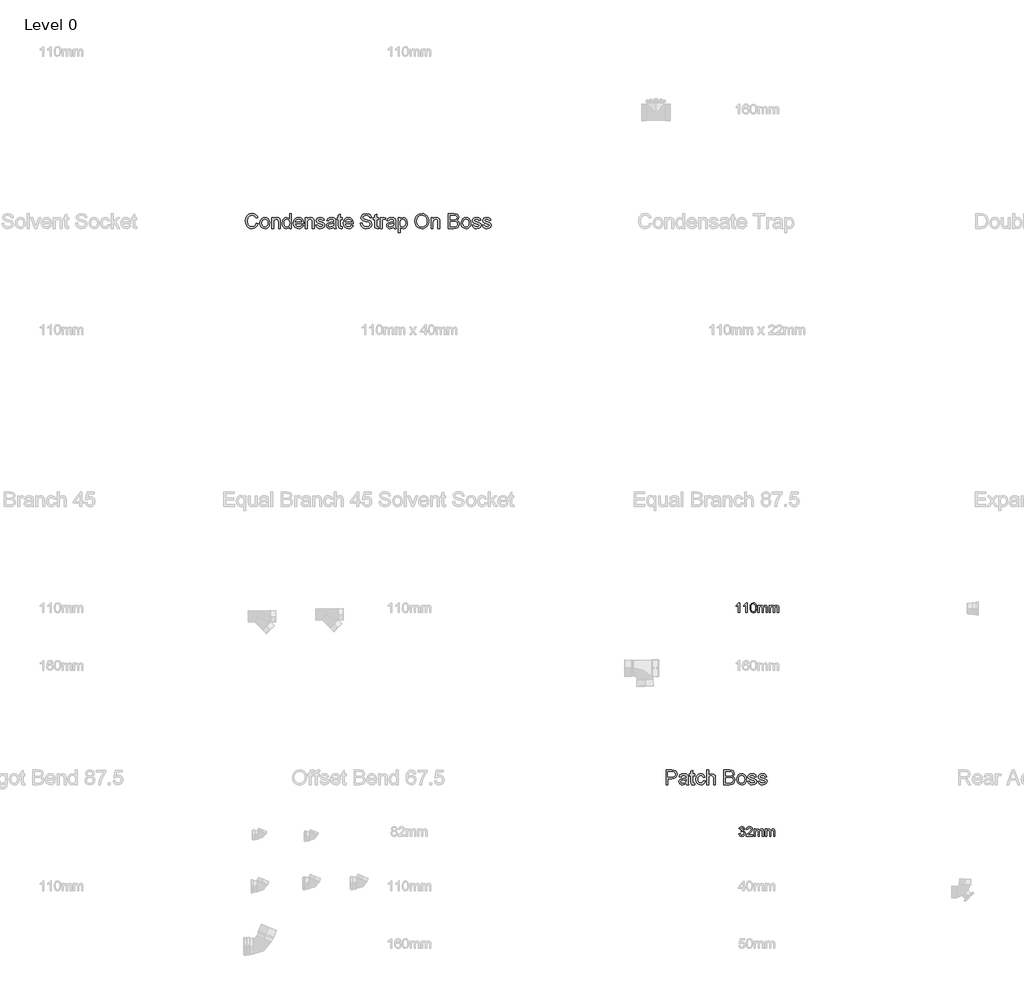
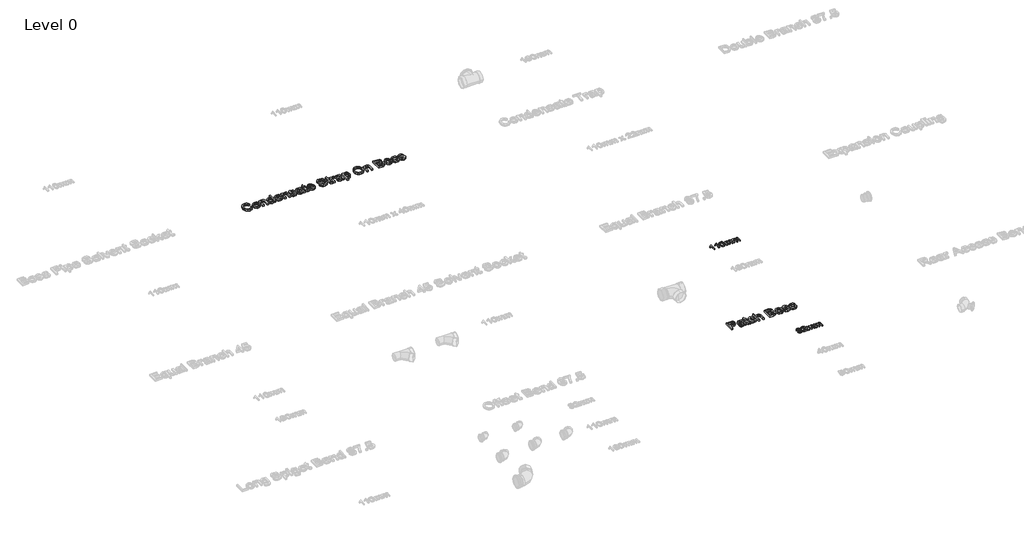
# One storey, part 19 of 28: 4 proxies.
"""IFC4 building model written with IfcOpenShell, lengths in millimetres."""

from ifc_helpers import new_model, si_unit, origin, origin_with_axes, place, context, project, spatial, polyline, outline, extrude, element, save

model = new_model("IFC4")

# Units and contexts
model_context = context("Model", 3, world=origin())
ifc_project = project(units=[si_unit("LENGTHUNIT", "METRE", prefix="MILLI")], contexts=[model_context])

# Site, building, storey
site = spatial("IfcSite", under=ifc_project)
building = spatial("IfcBuilding", under=site)
storey = spatial("IfcBuildingStorey", under=building, Name="Level 0", Elevation=0.0)

# Proxies
placement = place(None, origin())
element("IfcBuildingElementProxy", 1, Name="100mm Arial", ObjectType="100mm Arial", at=placement, inside=storey, context=model_context, shape_type="SweptSolid", body=[
    extrude(outline(polyline([(-6791.7293188, 2637.7167304), (-6804.0370111, 2637.7167304), (-6804.0370111, 2714.4474996), (-6815.6956649, 2706.1422111), (-6828.6523957, 2699.9282688), (-6828.6523957, 2711.5628842), (-6810.6115303, 2723.0773073), (-6799.6620111, 2736.1782688), (-6791.7293188, 2736.1782688), (-6791.7293188, 2637.7167304)])), origin_with_axes(), (0.0, 0.0, 1.0), 15.0),
    extrude(outline(polyline([(-6716.3447034, 2637.7167304), (-6728.6523957, 2637.7167304), (-6728.6523957, 2714.4474996), (-6740.3110495, 2706.1422111), (-6753.2677803, 2699.9282688), (-6753.2677803, 2711.5628842), (-6735.2269149, 2723.0773073), (-6724.2773957, 2736.1782688), (-6716.3447034, 2736.1782688), (-6716.3447034, 2637.7167304)])), origin_with_axes(), (0.0, 0.0, 1.0), 15.0),
    extrude(outline(polyline([(-6687.1139341, 2686.1542304), (-6683.4961457, 2714.4835573), (-6672.7509534, 2730.8176919), (-6654.8062418, 2736.1782688), (-6640.4312418, 2733.0051919), (-6630.5033572, 2723.8585573), (-6624.7341264, 2709.2912496), (-6622.4985495, 2686.1542304), (-6626.0802803, 2657.9450958), (-6636.7894149, 2641.5749035), (-6654.8062418, 2636.1782688), (-6667.5947034, 2638.5220188), (-6677.3062418, 2645.5532688), (-6684.6620111, 2662.2059131), (-6687.1139341, 2686.1542304)]), holes=[polyline([(-6674.8062418, 2686.1782688), (-6673.3639341, 2666.8182929), (-6669.0370111, 2655.613365), (-6662.5947034, 2650.2678121), (-6654.8062418, 2648.4859611), (-6647.0177803, 2650.2738217), (-6640.5754726, 2655.6374035), (-6636.2485495, 2666.848341), (-6634.8062418, 2686.1782688), (-6636.2004726, 2705.1025477), (-6640.3831649, 2716.394615), (-6646.8134534, 2722.0015861), (-6654.9504726, 2723.8705765), (-6662.6547995, 2722.2239419), (-6668.8447034, 2717.2840381), (-6673.3158572, 2705.2888458), (-6674.8062418, 2686.1782688)])]), origin_with_axes(), (0.0, 0.0, 1.0), 15.0),
    extrude(outline(polyline([(-6608.6523957, 2637.7167304), (-6608.6523957, 2710.0244227), (-6596.3447034, 2710.0244227), (-6596.3447034, 2698.1253842), (-6587.8831649, 2707.8729804), (-6575.8398957, 2711.5628842), (-6563.5081649, 2707.800865), (-6556.7293188, 2697.2599996), (-6547.1259534, 2707.9871631), (-6534.9985495, 2711.5628842), (-6525.7467466, 2710.0755044), (-6518.9047995, 2705.613365), (-6514.6770351, 2698.0562736), (-6513.2677803, 2687.2840381), (-6513.2677803, 2637.7167304), (-6525.5754726, 2637.7167304), (-6525.5754726, 2681.9955765), (-6526.7172995, 2692.2720188), (-6530.8519149, 2697.332115), (-6537.8831649, 2699.2551919), (-6549.9865303, 2694.3273073), (-6554.8062418, 2678.5340381), (-6554.8062418, 2637.7167304), (-6567.1139341, 2637.7167304), (-6567.1139341, 2683.3657688), (-6569.9624918, 2695.2888458), (-6579.3014341, 2699.2551919), (-6588.4120111, 2696.6109611), (-6594.4697034, 2688.8705765), (-6596.3447034, 2674.1830765), (-6596.3447034, 2637.7167304), (-6608.6523957, 2637.7167304)])), origin_with_axes(), (0.0, 0.0, 1.0), 15.0),
    extrude(outline(polyline([(-6494.8062418, 2637.7167304), (-6494.8062418, 2710.0244227), (-6482.4985495, 2710.0244227), (-6482.4985495, 2698.1253842), (-6474.0370111, 2707.8729804), (-6461.9937418, 2711.5628842), (-6449.6620111, 2707.800865), (-6442.8831649, 2697.2599996), (-6433.2797995, 2707.9871631), (-6421.1523957, 2711.5628842), (-6411.9005928, 2710.0755044), (-6405.0586457, 2705.613365), (-6400.8308813, 2698.0562736), (-6399.4216264, 2687.2840381), (-6399.4216264, 2637.7167304), (-6411.7293188, 2637.7167304), (-6411.7293188, 2681.9955765), (-6412.8711457, 2692.2720188), (-6417.0057611, 2697.332115), (-6424.0370111, 2699.2551919), (-6436.1403764, 2694.3273073), (-6440.960088, 2678.5340381), (-6440.960088, 2637.7167304), (-6453.2677803, 2637.7167304), (-6453.2677803, 2683.3657688), (-6456.116338, 2695.2888458), (-6465.4552803, 2699.2551919), (-6474.5658572, 2696.6109611), (-6480.6235495, 2688.8705765), (-6482.4985495, 2674.1830765), (-6482.4985495, 2637.7167304), (-6494.8062418, 2637.7167304)])), origin_with_axes(), (0.0, 0.0, 1.0), 15.0),
])
element("IfcBuildingElementProxy", 2, Name="100mm Arial", ObjectType="100mm Arial", at=placement, inside=storey, context=model_context, shape_type="SweptSolid", body=[
    extrude(outline(polyline([(-6800.1908572, 412.804251), (-6787.8831649, 414.3427125), (-6781.0922995, 401.3859817), (-6768.3879726, 397.4196356), (-6759.9504726, 398.7838183), (-6753.4360495, 402.8763663), (-6747.8831649, 416.3859817), (-6753.3879726, 429.1143471), (-6767.3783572, 434.1504048), (-6776.0081649, 432.804251), (-6774.6379726, 445.1119433), (-6772.6668188, 444.9677125), (-6758.7004726, 448.5013663), (-6754.0490303, 452.9845394), (-6752.4985495, 459.366751), (-6756.9937418, 468.9941548), (-6768.5802803, 472.804251), (-6780.3110495, 468.9580971), (-6786.3447034, 457.4196356), (-6798.6523957, 458.9580971), (-6795.0285976, 470.0097798), (-6788.5802803, 478.2609817), (-6779.7581649, 483.3992029), (-6769.0129726, 485.1119433), (-6754.1692226, 481.7345394), (-6743.7846072, 472.5037702), (-6740.1908572, 460.0879048), (-6743.6043188, 448.741751), (-6753.7004726, 440.5927125), (-6740.2870111, 432.179251), (-6735.5754726, 416.1696356), (-6737.9312418, 404.1744433), (-6744.9985495, 394.1504048), (-6755.6656168, 387.3715587), (-6768.8206649, 385.1119433), (-6780.7197034, 387.0410298), (-6790.4072034, 392.8282894), (-6797.1439822, 401.6804529), (-6800.1908572, 412.804251)])), origin_with_axes(), (0.0, 0.0, 1.0), 15.0),
    extrude(outline(polyline([(-6661.7293188, 398.9580971), (-6661.7293188, 386.6504048), (-6726.3447034, 386.6504048), (-6725.022588, 395.1359817), (-6717.5466264, 408.2008856), (-6702.1379726, 422.4677125), (-6680.8879726, 442.9725202), (-6675.5754726, 456.9148279), (-6680.5874918, 468.2008856), (-6693.6764341, 472.804251), (-6707.3182611, 468.3090587), (-6712.4985495, 455.881174), (-6724.8062418, 457.4196356), (-6721.8224678, 469.3246837), (-6715.3711457, 478.0205971), (-6705.7888139, 483.3391067), (-6693.4120111, 485.1119433), (-6680.9450639, 483.1407894), (-6671.3807611, 477.2273279), (-6665.2960255, 468.3931933), (-6663.2677803, 457.6600202), (-6665.4552803, 445.9893471), (-6672.7269149, 433.9220394), (-6690.3591264, 417.0590587), (-6704.5177803, 405.2201163), (-6710.0706649, 398.9580971), (-6661.7293188, 398.9580971)])), origin_with_axes(), (0.0, 0.0, 1.0), 15.0),
    extrude(outline(polyline([(-6646.3447034, 386.6504048), (-6646.3447034, 458.9580971), (-6634.0370111, 458.9580971), (-6634.0370111, 447.0590587), (-6625.5754726, 456.8066548), (-6613.5322034, 460.4965587), (-6601.2004726, 456.7345394), (-6594.4216264, 446.193674), (-6584.8182611, 456.9208375), (-6572.6908572, 460.4965587), (-6563.4390543, 459.0091788), (-6556.5971072, 454.5470394), (-6552.3693428, 446.9899481), (-6550.960088, 436.2177125), (-6550.960088, 386.6504048), (-6563.2677803, 386.6504048), (-6563.2677803, 430.929251), (-6564.4096072, 441.2056933), (-6568.5442226, 446.2657894), (-6575.5754726, 448.1888663), (-6587.678838, 443.2609817), (-6592.4985495, 427.4677125), (-6592.4985495, 386.6504048), (-6604.8062418, 386.6504048), (-6604.8062418, 432.2994433), (-6607.6547995, 444.2225202), (-6616.9937418, 448.1888663), (-6626.1043188, 445.5446356), (-6632.1620111, 437.804251), (-6634.0370111, 423.116751), (-6634.0370111, 386.6504048), (-6646.3447034, 386.6504048)])), origin_with_axes(), (0.0, 0.0, 1.0), 15.0),
    extrude(outline(polyline([(-6532.4985495, 386.6504048), (-6532.4985495, 458.9580971), (-6520.1908572, 458.9580971), (-6520.1908572, 447.0590587), (-6511.7293188, 456.8066548), (-6499.6860495, 460.4965587), (-6487.3543188, 456.7345394), (-6480.5754726, 446.193674), (-6470.9721072, 456.9208375), (-6458.8447034, 460.4965587), (-6449.5929005, 459.0091788), (-6442.7509534, 454.5470394), (-6438.5231889, 446.9899481), (-6437.1139341, 436.2177125), (-6437.1139341, 386.6504048), (-6449.4216264, 386.6504048), (-6449.4216264, 430.929251), (-6450.5634534, 441.2056933), (-6454.6980688, 446.2657894), (-6461.7293188, 448.1888663), (-6473.8326841, 443.2609817), (-6478.6523957, 427.4677125), (-6478.6523957, 386.6504048), (-6490.960088, 386.6504048), (-6490.960088, 432.2994433), (-6493.8086457, 444.2225202), (-6503.147588, 448.1888663), (-6512.2581649, 445.5446356), (-6518.3158572, 437.804251), (-6520.1908572, 423.116751), (-6520.1908572, 386.6504048), (-6532.4985495, 386.6504048)])), origin_with_axes(), (0.0, 0.0, 1.0), 15.0),
])
element("IfcBuildingElementProxy", 3, Name="150mm Arial", ObjectType="150mm Arial", at=placement, inside=storey, context=model_context, shape_type="SweptSolid", body=[
    extrude(outline(polyline([(-11655.2202973, 6557.7145219), (-11636.7587589, 6552.9549065), (-11645.2773887, 6531.4419859), (-11658.6457781, 6515.7253392), (-11676.2058743, 6506.111457), (-11697.2996243, 6502.9068296), (-11718.7133863, 6505.3317094), (-11735.7190954, 6512.6063488), (-11748.7539512, 6524.478344), (-11758.2551531, 6540.6952911), (-11764.0559344, 6559.760796), (-11765.9895281, 6580.1784642), (-11763.8035305, 6601.713921), (-11757.2455377, 6620.3106758), (-11746.6580978, 6635.3782839), (-11732.3837589, 6646.3263008), (-11715.4546723, 6652.9924666), (-11696.9029897, 6655.2145219), (-11676.6611026, 6652.338921), (-11659.9258262, 6643.7121181), (-11647.2199969, 6629.8659642), (-11639.0664512, 6611.3323104), (-11657.5279897, 6606.9332719), (-11663.92823, 6620.3963128), (-11672.6722204, 6629.6315892), (-11683.8681339, 6634.9726349), (-11697.6241435, 6636.7529835), (-11713.4805137, 6634.7788248), (-11726.506355, 6628.8563488), (-11736.3906699, 6619.6075508), (-11742.8224608, 6607.6544258), (-11747.5279897, 6580.2145219), (-11741.9570762, 6548.4116373), (-11734.835682, 6536.5351349), (-11724.6133262, 6528.0931277), (-11712.358218, 6523.049558), (-11699.1385666, 6521.3683681), (-11683.7284103, 6523.6580315), (-11670.8873647, 6530.5270219), (-11661.1923526, 6541.9032238), (-11655.2202973, 6557.7145219)])), origin_with_axes(), (0.0, 0.0, 1.0), 25.0),
    extrude(outline(polyline([(-11618.2972204, 6559.4452911), (-11614.303831, 6585.5961325), (-11602.3236627, 6603.9765411), (-11587.52198, 6612.9819498), (-11569.7996243, 6615.9837527), (-11550.405093, 6612.3284041), (-11534.913807, 6601.3623585), (-11524.7590594, 6583.9510003), (-11521.3741435, 6560.9597142), (-11522.8705377, 6542.3088729), (-11527.3597204, 6528.1111565), (-11534.7109824, 6517.4786445), (-11544.7936147, 6509.5234161), (-11556.7692757, 6504.5609762), (-11569.7996243, 6502.9068296), (-11589.4285305, 6506.5486565), (-11604.9017877, 6517.4741373), (-11614.9483622, 6535.2505796), (-11618.2972204, 6559.4452911)]), holes=[polyline([(-11599.835682, 6559.4813488), (-11597.6992637, 6542.7731157), (-11591.2900089, 6530.86957), (-11581.6445762, 6523.7436686), (-11569.7996243, 6521.3683681), (-11558.0087589, 6523.7571902), (-11548.381355, 6530.9236565), (-11541.9721002, 6542.9849546), (-11539.835682, 6560.0582719), (-11541.9856219, 6576.2797262), (-11548.4354416, 6588.0210123), (-11558.0763671, 6595.1469137), (-11569.7996243, 6597.5222142), (-11581.6445762, 6595.1559282), (-11591.2900089, 6588.05707), (-11597.6992637, 6576.1805676), (-11599.835682, 6559.4813488)])]), origin_with_axes(), (0.0, 0.0, 1.0), 25.0),
    extrude(outline(polyline([(-11500.6049127, 6505.2145219), (-11500.6049127, 6613.6760604), (-11482.1433743, 6613.6760604), (-11482.1433743, 6598.5318296), (-11468.0267877, 6611.6207719), (-11448.7539512, 6615.9837527), (-11431.320057, 6612.4681277), (-11419.4210185, 6603.2373585), (-11413.8861627, 6589.6616373), (-11412.912605, 6571.8130796), (-11412.912605, 6505.2145219), (-11431.3741435, 6505.2145219), (-11431.3741435, 6569.3250988), (-11433.5015473, 6585.6592335), (-11441.0195762, 6594.2950508), (-11453.693855, 6597.5222142), (-11464.5066555, 6595.7103152), (-11473.7239031, 6590.2746181), (-11480.0385065, 6579.7728152), (-11482.1433743, 6562.7625988), (-11482.1433743, 6505.2145219), (-11500.6049127, 6505.2145219)])), origin_with_axes(), (0.0, 0.0, 1.0), 25.0),
    extrude(outline(polyline([(-11320.6049127, 6505.2145219), (-11320.6049127, 6522.6303873), (-11332.819456, 6507.837719), (-11349.7034704, 6502.9068296), (-11361.6385666, 6504.6916854), (-11372.5640473, 6510.0462527), (-11381.8128454, 6518.596433), (-11388.7178935, 6529.9681277), (-11393.0177733, 6543.7016012), (-11394.4510666, 6559.3371181), (-11389.1686147, 6588.7241373), (-11382.570057, 6600.3797863), (-11373.3392877, 6608.9525027), (-11362.1749247, 6614.2259402), (-11349.7755858, 6615.9837527), (-11332.756355, 6610.9537046), (-11320.6049127, 6597.8827911), (-11320.6049127, 6652.9068296), (-11302.1433743, 6652.9068296), (-11302.1433743, 6505.2145219), (-11320.6049127, 6505.2145219)]), holes=[polyline([(-11375.9895281, 6559.4092335), (-11373.9071964, 6542.7100147), (-11367.6602012, 6530.8335123), (-11358.5826772, 6523.7346541), (-11348.0087589, 6521.3683681), (-11337.4393478, 6523.6264811), (-11328.5916916, 6530.40082), (-11322.6016074, 6541.8175868), (-11320.6049127, 6558.0029835), (-11322.6376651, 6575.698296), (-11328.7359223, 6587.9669258), (-11337.8089392, 6595.1333921), (-11348.7659704, 6597.5222142), (-11359.4480618, 6595.2280436), (-11368.2010666, 6588.3455315), (-11374.0424127, 6576.5231157), (-11375.9895281, 6559.4092335)])]), origin_with_axes(), (0.0, 0.0, 1.0), 25.0),
    extrude(outline(polyline([(-11198.5135666, 6537.5222142), (-11180.412605, 6535.2145219), (-11186.9345401, 6521.5756998), (-11197.3416916, 6511.3803873), (-11211.3996844, 6505.025219), (-11228.8741435, 6502.9068296), (-11250.5358022, 6506.5621782), (-11267.2034704, 6517.5282238), (-11277.8314752, 6535.0928272), (-11281.3741435, 6558.5438488), (-11277.7954175, 6582.7836325), (-11267.0592397, 6600.9116373), (-11250.616932, 6612.2157238), (-11229.9198166, 6615.9837527), (-11209.8672324, 6612.2247383), (-11193.8440954, 6600.947695), (-11183.3377853, 6582.8557479), (-11179.835682, 6558.6520219), (-11179.943855, 6553.6760604), (-11262.912605, 6553.6760604), (-11259.7169921, 6539.8569498), (-11252.2936147, 6529.697695), (-11241.5799728, 6523.4506998), (-11228.5135666, 6521.3683681), (-11210.412605, 6525.2265411), (-11198.5135666, 6537.5222142)]), holes=[polyline([(-11262.912605, 6572.1375988), (-11198.2972204, 6572.1375988), (-11200.7942156, 6581.8912046), (-11205.6890473, 6588.8683681), (-11216.4522685, 6595.3587527), (-11229.991932, 6597.5222142), (-11242.436343, 6595.7959522), (-11252.726307, 6590.6171661), (-11259.8792517, 6582.5447503), (-11262.912605, 6572.1375988)])]), origin_with_axes(), (0.0, 0.0, 1.0), 25.0),
    extrude(outline(polyline([(-11161.3741435, 6505.2145219), (-11161.3741435, 6613.6760604), (-11142.912605, 6613.6760604), (-11142.912605, 6598.5318296), (-11128.7960185, 6611.6207719), (-11109.523182, 6615.9837527), (-11092.0892877, 6612.4681277), (-11080.1902493, 6603.2373585), (-11074.6553935, 6589.6616373), (-11073.6818358, 6571.8130796), (-11073.6818358, 6505.2145219), (-11092.1433743, 6505.2145219), (-11092.1433743, 6569.3250988), (-11094.2707781, 6585.6592335), (-11101.788807, 6594.2950508), (-11114.4630858, 6597.5222142), (-11125.2758863, 6595.7103152), (-11134.4931339, 6590.2746181), (-11140.8077372, 6579.7728152), (-11142.912605, 6562.7625988), (-11142.912605, 6505.2145219), (-11161.3741435, 6505.2145219)])), origin_with_axes(), (0.0, 0.0, 1.0), 25.0),
    extrude(outline(polyline([(-11055.2202973, 6537.5222142), (-11036.7587589, 6539.8299065), (-11033.8471002, 6531.9332719), (-11028.2130858, 6526.1279835), (-11008.6337589, 6521.3683681), (-10989.8116435, 6525.7313488), (-10983.6818358, 6535.9717335), (-10989.8477012, 6544.2650027), (-11008.850105, 6549.5294258), (-11036.6505858, 6558.5618777), (-11048.7839993, 6569.1087527), (-11052.912605, 6584.0005796), (-11049.5952973, 6597.7565892), (-11040.5448166, 6608.2674065), (-11028.8080377, 6613.7301469), (-11012.9246243, 6615.9837527), (-10990.460682, 6612.3599546), (-10976.1818358, 6602.5522623), (-10969.835682, 6585.9837527), (-10988.2972204, 6583.6760604), (-10995.2383262, 6593.8623585), (-11011.4823166, 6597.5222142), (-11029.1505858, 6594.0246181), (-11034.4510666, 6585.8755796), (-11032.2515473, 6580.5029835), (-11025.3645281, 6576.4284642), (-11009.4630858, 6572.4981758), (-10982.36573, 6563.8082719), (-10969.7815954, 6553.9645219), (-10965.2202973, 6537.9188488), (-10970.5748647, 6520.2505796), (-10986.0255858, 6507.43207), (-11008.8861627, 6502.9068296), (-11027.5009464, 6505.08832), (-11041.085682, 6511.6327911), (-11050.1541916, 6522.4681277), (-11055.2202973, 6537.5222142)])), origin_with_axes(), (0.0, 0.0, 1.0), 25.0),
    extrude(outline(polyline([(-10875.2202973, 6519.0606758), (-10893.1229416, 6506.5486565), (-10912.9005858, 6502.9068296), (-10928.3287709, 6505.0973344), (-10939.70948, 6511.6688488), (-10946.7272084, 6521.6478152), (-10949.0664512, 6534.0606758), (-10945.5327973, 6548.6640411), (-10936.2479416, 6559.2650027), (-10923.3212589, 6565.322695), (-10907.3477012, 6568.0991373), (-10875.3284704, 6574.4452911), (-10875.2202973, 6578.5558681), (-10876.491331, 6586.7950508), (-10880.304432, 6592.1856758), (-10888.8320762, 6596.1880796), (-10900.7130858, 6597.5222142), (-10919.3909704, 6593.9705315), (-10928.2972204, 6581.3683681), (-10946.7587589, 6583.6760604), (-10938.77198, 6601.7049065), (-10922.6902493, 6612.2698104), (-10898.3332781, 6615.9837527), (-10875.95948, 6612.7025027), (-10863.3212589, 6604.46332), (-10857.6602012, 6591.9332719), (-10856.7587589, 6575.7794258), (-10856.7587589, 6552.8106758), (-10855.8212589, 6520.7373585), (-10852.1433743, 6505.2145219), (-10870.6049127, 6505.2145219), (-10875.2202973, 6519.0606758)]), holes=[polyline([(-10875.2202973, 6555.9837527), (-10905.0039512, 6550.322695), (-10920.8873647, 6547.3299065), (-10928.0808743, 6542.4621181), (-10930.6049127, 6535.3587527), (-10925.1061147, 6525.3707719), (-10908.9702973, 6521.3683681), (-10890.2924127, 6525.7854354), (-10878.2491435, 6536.4765411), (-10875.3284704, 6550.7553873), (-10875.2202973, 6555.9837527)])]), origin_with_axes(), (0.0, 0.0, 1.0), 25.0),
    extrude(outline(polyline([(-10792.1433743, 6520.6111565), (-10789.835682, 6504.6736565), (-10803.6457781, 6502.9068296), (-10819.1145281, 6505.9717335), (-10826.8308743, 6514.0125988), (-10829.0664512, 6534.9621181), (-10829.0664512, 6595.2145219), (-10842.912605, 6595.2145219), (-10842.912605, 6613.6760604), (-10829.0664512, 6613.6760604), (-10829.0664512, 6640.0342335), (-10810.6049127, 6650.8875988), (-10810.6049127, 6613.6760604), (-10792.1433743, 6613.6760604), (-10792.1433743, 6595.2145219), (-10810.6049127, 6595.2145219), (-10810.6049127, 6535.5029835), (-10809.631355, 6525.9837527), (-10806.476307, 6522.6123585), (-10800.1842397, 6521.3683681), (-10792.1433743, 6520.6111565)])), origin_with_axes(), (0.0, 0.0, 1.0), 25.0),
    extrude(outline(polyline([(-10697.7443358, 6537.5222142), (-10679.6433743, 6535.2145219), (-10686.1653094, 6521.5756998), (-10696.5724608, 6511.3803873), (-10710.6304536, 6505.025219), (-10728.1049127, 6502.9068296), (-10749.7665714, 6506.5621782), (-10766.4342397, 6517.5282238), (-10777.0622445, 6535.0928272), (-10780.6049127, 6558.5438488), (-10777.0261868, 6582.7836325), (-10766.2900089, 6600.9116373), (-10749.8477012, 6612.2157238), (-10729.1505858, 6615.9837527), (-10709.0980017, 6612.2247383), (-10693.0748647, 6600.947695), (-10682.5685546, 6582.8557479), (-10679.0664512, 6558.6520219), (-10679.1746243, 6553.6760604), (-10762.1433743, 6553.6760604), (-10758.9477613, 6539.8569498), (-10751.5243839, 6529.697695), (-10740.8107421, 6523.4506998), (-10727.7443358, 6521.3683681), (-10709.6433743, 6525.2265411), (-10697.7443358, 6537.5222142)]), holes=[polyline([(-10762.1433743, 6572.1375988), (-10697.5279897, 6572.1375988), (-10700.0249848, 6581.8912046), (-10704.9198166, 6588.8683681), (-10715.6830377, 6595.3587527), (-10729.2227012, 6597.5222142), (-10741.6671122, 6595.7959522), (-10751.9570762, 6590.6171661), (-10759.1100209, 6582.5447503), (-10762.1433743, 6572.1375988)])]), origin_with_axes(), (0.0, 0.0, 1.0), 25.0),
    extrude(outline(polyline([(-10607.5279897, 6555.9837527), (-10589.0664512, 6555.9837527), (-10583.116932, 6537.5041854), (-10568.585682, 6525.8214931), (-10546.4462589, 6521.3683681), (-10527.1553935, 6524.7397623), (-10514.6974608, 6534.0065892), (-10510.6049127, 6546.3924065), (-10513.6698166, 6557.9128392), (-10526.2178935, 6566.2962527), (-10553.0989031, 6573.3455315), (-10582.0352012, 6582.4500988), (-10597.7383262, 6596.1880796), (-10602.912605, 6614.541445), (-10601.3125449, 6625.3542455), (-10596.5123647, 6635.4368777), (-10588.6382661, 6643.9825508), (-10577.8164512, 6650.1844738), (-10550.4486627, 6655.2145219), (-10521.241932, 6649.9500988), (-10510.0460185, 6643.4506998), (-10501.7707781, 6634.4813488), (-10496.5333983, 6623.6009402), (-10494.4510666, 6611.3683681), (-10512.912605, 6611.3683681), (-10516.3020281, 6622.3839931), (-10523.3693358, 6630.3347142), (-10534.4120041, 6635.1484161), (-10549.7275089, 6636.7529835), (-10565.4035906, 6635.166445), (-10576.1577973, 6630.4068296), (-10582.3777493, 6623.4026229), (-10584.4510666, 6615.0823104), (-10582.9817156, 6607.9879594), (-10578.5736627, 6602.2818296), (-10548.429432, 6591.9693296), (-10515.7611627, 6582.7025027), (-10505.2368238, 6576.0047863), (-10497.8945762, 6567.7385604), (-10492.1433743, 6546.8611565), (-10493.7975209, 6535.4804474), (-10498.7599608, 6524.77582), (-10506.8278695, 6515.5630796), (-10517.7984223, 6508.6580315), (-10545.725105, 6502.9068296), (-10563.8125449, 6504.4573104), (-10578.6998647, 6509.1087527), (-10590.5583382, 6516.8791854), (-10599.5592397, 6527.7866373), (-10605.3374848, 6541.0738969), (-10607.5279897, 6555.9837527)])), origin_with_axes(), (0.0, 0.0, 1.0), 25.0),
    extrude(outline(polyline([(-10427.5279897, 6520.6111565), (-10425.2202973, 6504.6736565), (-10439.0303935, 6502.9068296), (-10454.4991435, 6505.9717335), (-10462.2154897, 6514.0125988), (-10464.4510666, 6534.9621181), (-10464.4510666, 6595.2145219), (-10478.2972204, 6595.2145219), (-10478.2972204, 6613.6760604), (-10464.4510666, 6613.6760604), (-10464.4510666, 6640.0342335), (-10445.9895281, 6650.8875988), (-10445.9895281, 6613.6760604), (-10427.5279897, 6613.6760604), (-10427.5279897, 6595.2145219), (-10445.9895281, 6595.2145219), (-10445.9895281, 6535.5029835), (-10445.0159704, 6525.9837527), (-10441.8609223, 6522.6123585), (-10435.568855, 6521.3683681), (-10427.5279897, 6520.6111565)])), origin_with_axes(), (0.0, 0.0, 1.0), 25.0),
    extrude(outline(polyline([(-10409.0664512, 6505.2145219), (-10409.0664512, 6613.6760604), (-10392.912605, 6613.6760604), (-10392.912605, 6597.6303873), (-10381.4462589, 6612.4140411), (-10369.9077973, 6615.9837527), (-10351.3741435, 6610.2866373), (-10357.5400089, 6593.7361565), (-10370.5207781, 6597.5222142), (-10380.95948, 6593.8803873), (-10387.6121243, 6583.7842335), (-10390.6049127, 6562.2217335), (-10390.6049127, 6505.2145219), (-10409.0664512, 6505.2145219)])), origin_with_axes(), (0.0, 0.0, 1.0), 25.0),
    extrude(outline(polyline([(-10270.6049127, 6519.0606758), (-10288.507557, 6506.5486565), (-10308.2852012, 6502.9068296), (-10323.7133863, 6505.0973344), (-10335.0940954, 6511.6688488), (-10342.1118238, 6521.6478152), (-10344.4510666, 6534.0606758), (-10340.9174127, 6548.6640411), (-10331.632557, 6559.2650027), (-10318.7058743, 6565.322695), (-10302.7323166, 6568.0991373), (-10270.7130858, 6574.4452911), (-10270.6049127, 6578.5558681), (-10271.8759464, 6586.7950508), (-10275.6890473, 6592.1856758), (-10284.2166916, 6596.1880796), (-10296.0977012, 6597.5222142), (-10314.7755858, 6593.9705315), (-10323.6818358, 6581.3683681), (-10342.1433743, 6583.6760604), (-10334.1565954, 6601.7049065), (-10318.0748647, 6612.2698104), (-10293.7178935, 6615.9837527), (-10271.3440954, 6612.7025027), (-10258.7058743, 6604.46332), (-10253.0448166, 6591.9332719), (-10252.1433743, 6575.7794258), (-10252.1433743, 6552.8106758), (-10251.2058743, 6520.7373585), (-10247.5279897, 6505.2145219), (-10265.9895281, 6505.2145219), (-10270.6049127, 6519.0606758)]), holes=[polyline([(-10270.6049127, 6555.9837527), (-10300.3885666, 6550.322695), (-10316.27198, 6547.3299065), (-10323.4654897, 6542.4621181), (-10325.9895281, 6535.3587527), (-10320.49073, 6525.3707719), (-10304.3549127, 6521.3683681), (-10285.6770281, 6525.7854354), (-10273.6337589, 6536.4765411), (-10270.7130858, 6550.7553873), (-10270.6049127, 6555.9837527)])]), origin_with_axes(), (0.0, 0.0, 1.0), 25.0),
    extrude(outline(polyline([(-10226.7587589, 6463.6760604), (-10226.7587589, 6613.6760604), (-10208.2972204, 6613.6760604), (-10208.2972204, 6595.5750988), (-10195.5327973, 6610.8815892), (-10178.2972204, 6615.9837527), (-10165.8122445, 6614.1988969), (-10154.8957781, 6608.8443296), (-10146.007557, 6600.24457), (-10139.6073166, 6588.7241373), (-10134.4510666, 6560.2746181), (-10135.9068959, 6544.4858561), (-10140.2743839, 6530.3647623), (-10147.413807, 6518.6279835), (-10157.1854416, 6509.9921661), (-10168.5661507, 6504.6781637), (-10180.5327973, 6502.9068296), (-10196.5964993, 6507.6484161), (-10208.2972204, 6519.6375988), (-10208.2972204, 6463.6760604), (-10226.7587589, 6463.6760604)]), holes=[polyline([(-10208.2972204, 6558.5799065), (-10206.3005257, 6542.0294258), (-10200.3104416, 6530.4549065), (-10191.4717997, 6523.6400027), (-10180.929432, 6521.3683681), (-10170.2157901, 6523.7211325), (-10161.1517877, 6530.7794258), (-10154.9724007, 6542.7776229), (-10152.912605, 6559.9500988), (-10154.9228214, 6576.4104354), (-10160.9534704, 6588.1472142), (-10169.7785906, 6595.1784642), (-10180.1722204, 6597.5222142), (-10190.6064151, 6595.0297262), (-10199.7695762, 6587.5522623), (-10206.1653094, 6575.3241974), (-10208.2972204, 6558.5799065)])]), origin_with_axes(), (0.0, 0.0, 1.0), 25.0),
    extrude(outline(polyline([(-10060.6049127, 6577.1135604), (-10055.6830377, 6609.7728152), (-10040.9174127, 6634.4813488), (-10018.3723406, 6650.0312286), (-9990.1121243, 6655.2145219), (-9970.7401291, 6652.7806277), (-9953.3693358, 6645.478945), (-9938.9462589, 6633.823296), (-9928.4174127, 6618.3275027), (-9921.9811147, 6599.7397623), (-9919.835682, 6578.8082719), (-9922.0937949, 6557.5973344), (-9928.8681339, 6538.7481758), (-9939.7846002, 6523.2253392), (-9954.4690954, 6511.9933681), (-9971.6911507, 6505.1784642), (-9990.2202973, 6502.9068296), (-10009.8897685, 6505.4173464), (-10027.3597204, 6512.9488969), (-10041.7467397, 6524.8208921), (-10052.1674127, 6540.3527431), (-10058.4955377, 6558.2238368), (-10060.6049127, 6577.1135604)]), holes=[polyline([(-10042.1433743, 6576.9332719), (-10038.451968, 6553.8293056), (-10027.3777493, 6536.2241373), (-10010.7326171, 6525.0823104), (-9990.3284704, 6521.3683681), (-9969.6268478, 6525.1183681), (-9952.9546723, 6536.3683681), (-9941.9615834, 6554.5144017), (-9938.2972204, 6578.9525027), (-9939.86573, 6595.2956517), (-9944.5712589, 6609.4212527), (-9952.2921122, 6620.9732359), (-9962.9065954, 6629.5955315), (-9975.7115834, 6634.9636205), (-9990.0039512, 6636.7529835), (-10009.8627252, 6633.3049666), (-10026.7467397, 6622.9609161), (-10038.2942156, 6604.5579714), (-10042.1433743, 6576.9332719)])]), origin_with_axes(), (0.0, 0.0, 1.0), 25.0),
    extrude(outline(polyline([(-9896.7587589, 6505.2145219), (-9896.7587589, 6613.6760604), (-9878.2972204, 6613.6760604), (-9878.2972204, 6598.5318296), (-9864.1806339, 6611.6207719), (-9844.9077973, 6615.9837527), (-9827.4739031, 6612.4681277), (-9815.5748647, 6603.2373585), (-9810.0400089, 6589.6616373), (-9809.0664512, 6571.8130796), (-9809.0664512, 6505.2145219), (-9827.5279897, 6505.2145219), (-9827.5279897, 6569.3250988), (-9829.6553935, 6585.6592335), (-9837.1734223, 6594.2950508), (-9849.8477012, 6597.5222142), (-9860.6605017, 6595.7103152), (-9869.8777493, 6590.2746181), (-9876.1923526, 6579.7728152), (-9878.2972204, 6562.7625988), (-9878.2972204, 6505.2145219), (-9896.7587589, 6505.2145219)])), origin_with_axes(), (0.0, 0.0, 1.0), 25.0),
    extrude(outline(polyline([(-9723.6818358, 6505.2145219), (-9723.6818358, 6652.9068296), (-9667.3236627, 6652.9068296), (-9639.7214993, 6648.5618777), (-9630.4456579, 6643.049558), (-9623.4234223, 6635.2025027), (-9617.5279897, 6616.3082719), (-9622.4859223, 6599.0546661), (-9637.4678935, 6585.9837527), (-9627.0066555, 6580.5210123), (-9619.2767877, 6572.2097142), (-9614.5036507, 6561.5997383), (-9612.912605, 6549.2409642), (-9617.257557, 6529.3912046), (-9628.0207781, 6515.2565892), (-9644.08448, 6507.7565892), (-9667.756355, 6505.2145219), (-9723.6818358, 6505.2145219)]), holes=[polyline([(-9705.2202973, 6592.9068296), (-9671.506355, 6592.9068296), (-9651.818855, 6594.4933681), (-9639.9739031, 6601.3263008), (-9635.9895281, 6613.3515411), (-9639.7034704, 6625.3948104), (-9650.3404897, 6632.5162046), (-9674.0664512, 6634.4452911), (-9705.2202973, 6634.4452911), (-9705.2202973, 6592.9068296)]), polyline([(-9705.2202973, 6523.6760604), (-9667.3597204, 6523.6760604), (-9653.6577973, 6524.3972142), (-9642.0652493, 6528.4176469), (-9634.3849608, 6536.6207719), (-9631.3741435, 6549.0606758), (-9634.9077973, 6563.4116373), (-9646.3561147, 6571.9753392), (-9669.162605, 6574.4452911), (-9705.2202973, 6574.4452911), (-9705.2202973, 6523.6760604)])]), origin_with_axes(), (0.0, 0.0, 1.0), 25.0),
    extrude(outline(polyline([(-9594.4510666, 6559.4452911), (-9590.4576772, 6585.5961325), (-9578.4775089, 6603.9765411), (-9563.6758262, 6612.9819498), (-9545.9534704, 6615.9837527), (-9526.5589392, 6612.3284041), (-9511.0676531, 6601.3623585), (-9500.9129055, 6583.9510003), (-9497.5279897, 6560.9597142), (-9499.0243839, 6542.3088729), (-9503.5135666, 6528.1111565), (-9510.8648286, 6517.4786445), (-9520.9474608, 6509.5234161), (-9532.9231219, 6504.5609762), (-9545.9534704, 6502.9068296), (-9565.5823767, 6506.5486565), (-9581.0556339, 6517.4741373), (-9591.1022084, 6535.2505796), (-9594.4510666, 6559.4452911)]), holes=[polyline([(-9575.9895281, 6559.4813488), (-9573.8531098, 6542.7731157), (-9567.443855, 6530.86957), (-9557.7984223, 6523.7436686), (-9545.9534704, 6521.3683681), (-9534.162605, 6523.7571902), (-9524.5352012, 6530.9236565), (-9518.1259464, 6542.9849546), (-9515.9895281, 6560.0582719), (-9518.139468, 6576.2797262), (-9524.5892877, 6588.0210123), (-9534.2302132, 6595.1469137), (-9545.9534704, 6597.5222142), (-9557.7984223, 6595.1559282), (-9567.443855, 6588.05707), (-9573.8531098, 6576.1805676), (-9575.9895281, 6559.4813488)])]), origin_with_axes(), (0.0, 0.0, 1.0), 25.0),
    extrude(outline(polyline([(-9483.6818358, 6537.5222142), (-9465.2202973, 6539.8299065), (-9462.3086387, 6531.9332719), (-9456.6746243, 6526.1279835), (-9437.0952973, 6521.3683681), (-9418.273182, 6525.7313488), (-9412.1433743, 6535.9717335), (-9418.3092397, 6544.2650027), (-9437.3116435, 6549.5294258), (-9465.1121243, 6558.5618777), (-9477.2455377, 6569.1087527), (-9481.3741435, 6584.0005796), (-9478.0568358, 6597.7565892), (-9469.006355, 6608.2674065), (-9457.2695762, 6613.7301469), (-9441.3861627, 6615.9837527), (-9418.9222204, 6612.3599546), (-9404.6433743, 6602.5522623), (-9398.2972204, 6585.9837527), (-9416.7587589, 6583.6760604), (-9423.6998647, 6593.8623585), (-9439.943855, 6597.5222142), (-9457.6121243, 6594.0246181), (-9462.912605, 6585.8755796), (-9460.7130858, 6580.5029835), (-9453.8260666, 6576.4284642), (-9437.9246243, 6572.4981758), (-9410.8272685, 6563.8082719), (-9398.2431339, 6553.9645219), (-9393.6818358, 6537.9188488), (-9399.0364031, 6520.2505796), (-9414.4871243, 6507.43207), (-9437.3477012, 6502.9068296), (-9455.9624848, 6505.08832), (-9469.5472204, 6511.6327911), (-9478.61573, 6522.4681277), (-9483.6818358, 6537.5222142)])), origin_with_axes(), (0.0, 0.0, 1.0), 25.0),
    extrude(outline(polyline([(-9379.835682, 6537.5222142), (-9361.3741435, 6539.8299065), (-9358.4624848, 6531.9332719), (-9352.8284704, 6526.1279835), (-9333.2491435, 6521.3683681), (-9314.4270281, 6525.7313488), (-9308.2972204, 6535.9717335), (-9314.4630858, 6544.2650027), (-9333.4654897, 6549.5294258), (-9361.2659704, 6558.5618777), (-9373.3993839, 6569.1087527), (-9377.5279897, 6584.0005796), (-9374.210682, 6597.7565892), (-9365.1602012, 6608.2674065), (-9353.4234223, 6613.7301469), (-9337.5400089, 6615.9837527), (-9315.0760666, 6612.3599546), (-9300.7972204, 6602.5522623), (-9294.4510666, 6585.9837527), (-9312.912605, 6583.6760604), (-9319.8537108, 6593.8623585), (-9336.0977012, 6597.5222142), (-9353.7659704, 6594.0246181), (-9359.0664512, 6585.8755796), (-9356.866932, 6580.5029835), (-9349.9799127, 6576.4284642), (-9334.0784704, 6572.4981758), (-9306.9811147, 6563.8082719), (-9294.39698, 6553.9645219), (-9289.835682, 6537.9188488), (-9295.1902493, 6520.2505796), (-9310.6409704, 6507.43207), (-9333.5015473, 6502.9068296), (-9352.116331, 6505.08832), (-9365.7010666, 6511.6327911), (-9374.7695762, 6522.4681277), (-9379.835682, 6537.5222142)])), origin_with_axes(), (0.0, 0.0, 1.0), 25.0),
])
element("IfcBuildingElementProxy", 4, Name="150mm Arial", ObjectType="150mm Arial", at=placement, inside=storey, context=model_context, shape_type="SweptSolid", body=[
    extrude(outline(polyline([(-7532.1433743, 905.2145219), (-7532.1433743, 1052.9068296), (-7477.4077973, 1052.9068296), (-7455.3404897, 1051.5005796), (-7437.4017877, 1044.5955315), (-7425.773182, 1030.3166854), (-7421.3741435, 1010.1784642), (-7424.3443959, 992.7716133), (-7433.2551531, 978.2674065), (-7449.9183142, 968.4777431), (-7476.1457781, 965.2145219), (-7513.6818358, 965.2145219), (-7513.6818358, 905.2145219), (-7532.1433743, 905.2145219)]), holes=[polyline([(-7513.6818358, 983.6760604), (-7475.0640473, 983.6760604), (-7458.693855, 985.3707719), (-7447.8765473, 990.4549065), (-7441.8458983, 998.6129594), (-7439.835682, 1009.5294258), (-7444.5772685, 1024.8178873), (-7457.0352012, 1033.1832719), (-7475.4967397, 1034.4452911), (-7513.6818358, 1034.4452911), (-7513.6818358, 983.6760604)])]), origin_with_axes(), (0.0, 0.0, 1.0), 25.0),
    extrude(outline(polyline([(-7329.0664512, 919.0606758), (-7346.9690954, 906.5486565), (-7366.7467397, 902.9068296), (-7382.1749247, 905.0973344), (-7393.5556339, 911.6688488), (-7400.5733622, 921.6478152), (-7402.912605, 934.0606758), (-7399.3789512, 948.6640411), (-7390.0940954, 959.2650027), (-7377.1674127, 965.322695), (-7361.193855, 968.0991373), (-7329.1746243, 974.4452911), (-7329.0664512, 978.5558681), (-7330.3374848, 986.7950508), (-7334.1505858, 992.1856758), (-7342.67823, 996.1880796), (-7354.5592397, 997.5222142), (-7373.2371243, 993.9705315), (-7382.1433743, 981.3683681), (-7400.6049127, 983.6760604), (-7392.6181339, 1001.7049065), (-7376.5364031, 1012.2698104), (-7352.179432, 1015.9837527), (-7329.8056339, 1012.7025027), (-7317.1674127, 1004.46332), (-7311.506355, 991.9332719), (-7310.6049127, 975.7794258), (-7310.6049127, 952.8106758), (-7309.6674127, 920.7373585), (-7305.9895281, 905.2145219), (-7324.4510666, 905.2145219), (-7329.0664512, 919.0606758)]), holes=[polyline([(-7329.0664512, 955.9837527), (-7358.850105, 950.322695), (-7374.7335185, 947.3299065), (-7381.9270281, 942.4621181), (-7384.4510666, 935.3587527), (-7378.9522685, 925.3707719), (-7362.8164512, 921.3683681), (-7344.1385666, 925.7854354), (-7332.0952973, 936.4765411), (-7329.1746243, 950.7553873), (-7329.0664512, 955.9837527)])]), origin_with_axes(), (0.0, 0.0, 1.0), 25.0),
    extrude(outline(polyline([(-7245.9895281, 920.6111565), (-7243.6818358, 904.6736565), (-7257.491932, 902.9068296), (-7272.960682, 905.9717335), (-7280.6770281, 914.0125988), (-7282.912605, 934.9621181), (-7282.912605, 995.2145219), (-7296.7587589, 995.2145219), (-7296.7587589, 1013.6760604), (-7282.912605, 1013.6760604), (-7282.912605, 1040.0342335), (-7264.4510666, 1050.8875988), (-7264.4510666, 1013.6760604), (-7245.9895281, 1013.6760604), (-7245.9895281, 995.2145219), (-7264.4510666, 995.2145219), (-7264.4510666, 935.5029835), (-7263.4775089, 925.9837527), (-7260.3224608, 922.6123585), (-7254.0303935, 921.3683681), (-7245.9895281, 920.6111565)])), origin_with_axes(), (0.0, 0.0, 1.0), 25.0),
    extrude(outline(polyline([(-7158.2972204, 944.4452911), (-7139.835682, 942.1375988), (-7144.9829175, 925.7178272), (-7154.6553935, 913.3094738), (-7167.9426531, 905.5074907), (-7183.9342397, 902.9068296), (-7203.5721603, 906.5351349), (-7218.92823, 917.4200508), (-7228.8395882, 935.0838128), (-7232.1433743, 959.0486565), (-7226.5003454, 989.7157238), (-7219.3789512, 1001.2136205), (-7209.3008262, 1009.4212527), (-7197.2440353, 1014.3431277), (-7184.1866435, 1015.9837527), (-7168.5871844, 1013.7301469), (-7156.11573, 1006.9693296), (-7147.1689151, 996.0618777), (-7142.1433743, 981.3683681), (-7160.6049127, 979.0606758), (-7169.1686147, 992.8888008), (-7184.0424127, 997.5222142), (-7195.9730017, 995.2415652), (-7205.4426531, 988.3996181), (-7211.6220401, 976.6267815), (-7213.6818358, 959.5534642), (-7211.6671122, 942.2502791), (-7205.6229416, 930.4368777), (-7196.3245642, 923.6354955), (-7184.5472204, 921.3683681), (-7174.9874247, 922.7836325), (-7167.1493839, 927.0294258), (-7161.4477613, 934.213921), (-7158.2972204, 944.4452911)])), origin_with_axes(), (0.0, 0.0, 1.0), 25.0),
    extrude(outline(polyline([(-7123.6818358, 905.2145219), (-7123.6818358, 1052.9068296), (-7105.2202973, 1052.9068296), (-7105.2202973, 998.603945), (-7090.8242637, 1011.6388008), (-7073.0928935, 1015.9837527), (-7052.3597204, 1011.2421661), (-7039.7755858, 998.135195), (-7035.9895281, 973.8683681), (-7035.9895281, 905.2145219), (-7054.4510666, 905.2145219), (-7054.4510666, 971.9573104), (-7055.9204175, 983.5138008), (-7060.3284704, 991.4284642), (-7067.4318358, 995.9987767), (-7076.9871243, 997.5222142), (-7092.1133262, 993.4116373), (-7102.20948, 982.2698104), (-7105.2202973, 962.8347142), (-7105.2202973, 905.2145219), (-7123.6818358, 905.2145219)])), origin_with_axes(), (0.0, 0.0, 1.0), 25.0),
    extrude(outline(polyline([(-6950.6049127, 905.2145219), (-6950.6049127, 1052.9068296), (-6894.2467397, 1052.9068296), (-6866.6445762, 1048.5618777), (-6857.3687348, 1043.049558), (-6850.3464993, 1035.2025027), (-6844.4510666, 1016.3082719), (-6849.4089993, 999.0546661), (-6864.3909704, 985.9837527), (-6853.9297324, 980.5210123), (-6846.1998647, 972.2097142), (-6841.4267276, 961.5997383), (-6839.835682, 949.2409642), (-6844.1806339, 929.3912046), (-6854.943855, 915.2565892), (-6871.007557, 907.7565892), (-6894.679432, 905.2145219), (-6950.6049127, 905.2145219)]), holes=[polyline([(-6932.1433743, 992.9068296), (-6898.429432, 992.9068296), (-6878.741932, 994.4933681), (-6866.89698, 1001.3263008), (-6862.912605, 1013.3515411), (-6866.6265473, 1025.3948104), (-6877.2635666, 1032.5162046), (-6900.9895281, 1034.4452911), (-6932.1433743, 1034.4452911), (-6932.1433743, 992.9068296)]), polyline([(-6932.1433743, 923.6760604), (-6894.2827973, 923.6760604), (-6880.5808743, 924.3972142), (-6868.9883262, 928.4176469), (-6861.3080377, 936.6207719), (-6858.2972204, 949.0606758), (-6861.8308743, 963.4116373), (-6873.2791916, 971.9753392), (-6896.085682, 974.4452911), (-6932.1433743, 974.4452911), (-6932.1433743, 923.6760604)])]), origin_with_axes(), (0.0, 0.0, 1.0), 25.0),
    extrude(outline(polyline([(-6821.3741435, 959.4452911), (-6817.3807541, 985.5961325), (-6805.4005858, 1003.9765411), (-6790.5989031, 1012.9819498), (-6772.8765473, 1015.9837527), (-6753.4820161, 1012.3284041), (-6737.99073, 1001.3623585), (-6727.8359824, 983.9510003), (-6724.4510666, 960.9597142), (-6725.9474608, 942.3088729), (-6730.4366435, 928.1111565), (-6737.7879055, 917.4786445), (-6747.8705377, 909.5234161), (-6759.8461988, 904.5609762), (-6772.8765473, 902.9068296), (-6792.5054536, 906.5486565), (-6807.9787108, 917.4741373), (-6818.0252853, 935.2505796), (-6821.3741435, 959.4452911)]), holes=[polyline([(-6802.912605, 959.4813488), (-6800.7761868, 942.7731157), (-6794.366932, 930.86957), (-6784.7214993, 923.7436686), (-6772.8765473, 921.3683681), (-6761.085682, 923.7571902), (-6751.4582781, 930.9236565), (-6745.0490233, 942.9849546), (-6742.912605, 960.0582719), (-6745.0625449, 976.2797262), (-6751.5123647, 988.0210123), (-6761.1532901, 995.1469137), (-6772.8765473, 997.5222142), (-6784.7214993, 995.1559282), (-6794.366932, 988.05707), (-6800.7761868, 976.1805676), (-6802.912605, 959.4813488)])]), origin_with_axes(), (0.0, 0.0, 1.0), 25.0),
    extrude(outline(polyline([(-6710.6049127, 937.5222142), (-6692.1433743, 939.8299065), (-6689.2317156, 931.9332719), (-6683.5977012, 926.1279835), (-6664.0183743, 921.3683681), (-6645.1962589, 925.7313488), (-6639.0664512, 935.9717335), (-6645.2323166, 944.2650027), (-6664.2347204, 949.5294258), (-6692.0352012, 958.5618777), (-6704.1686147, 969.1087527), (-6708.2972204, 984.0005796), (-6704.9799127, 997.7565892), (-6695.929432, 1008.2674065), (-6684.1926531, 1013.7301469), (-6668.3092397, 1015.9837527), (-6645.8452973, 1012.3599546), (-6631.5664512, 1002.5522623), (-6625.2202973, 985.9837527), (-6643.6818358, 983.6760604), (-6650.6229416, 993.8623585), (-6666.866932, 997.5222142), (-6684.5352012, 994.0246181), (-6689.835682, 985.8755796), (-6687.6361627, 980.5029835), (-6680.7491435, 976.4284642), (-6664.8477012, 972.4981758), (-6637.7503454, 963.8082719), (-6625.1662108, 953.9645219), (-6620.6049127, 937.9188488), (-6625.95948, 920.2505796), (-6641.4102012, 907.43207), (-6664.2707781, 902.9068296), (-6682.8855618, 905.08832), (-6696.4702973, 911.6327911), (-6705.538807, 922.4681277), (-6710.6049127, 937.5222142)])), origin_with_axes(), (0.0, 0.0, 1.0), 25.0),
    extrude(outline(polyline([(-6606.7587589, 937.5222142), (-6588.2972204, 939.8299065), (-6585.3855618, 931.9332719), (-6579.7515473, 926.1279835), (-6560.1722204, 921.3683681), (-6541.350105, 925.7313488), (-6535.2202973, 935.9717335), (-6541.3861627, 944.2650027), (-6560.3885666, 949.5294258), (-6588.1890473, 958.5618777), (-6600.3224608, 969.1087527), (-6604.4510666, 984.0005796), (-6601.1337589, 997.7565892), (-6592.0832781, 1008.2674065), (-6580.3464993, 1013.7301469), (-6564.4630858, 1015.9837527), (-6541.9991435, 1012.3599546), (-6527.7202973, 1002.5522623), (-6521.3741435, 985.9837527), (-6539.835682, 983.6760604), (-6546.7767877, 993.8623585), (-6563.0207781, 997.5222142), (-6580.6890473, 994.0246181), (-6585.9895281, 985.8755796), (-6583.7900089, 980.5029835), (-6576.9029897, 976.4284642), (-6561.0015473, 972.4981758), (-6533.9041916, 963.8082719), (-6521.320057, 953.9645219), (-6516.7587589, 937.9188488), (-6522.1133262, 920.2505796), (-6537.5640473, 907.43207), (-6560.4246243, 902.9068296), (-6579.0394079, 905.08832), (-6592.6241435, 911.6327911), (-6601.6926531, 922.4681277), (-6606.7587589, 937.5222142)])), origin_with_axes(), (0.0, 0.0, 1.0), 25.0),
])

save(model, "model.ifc")
